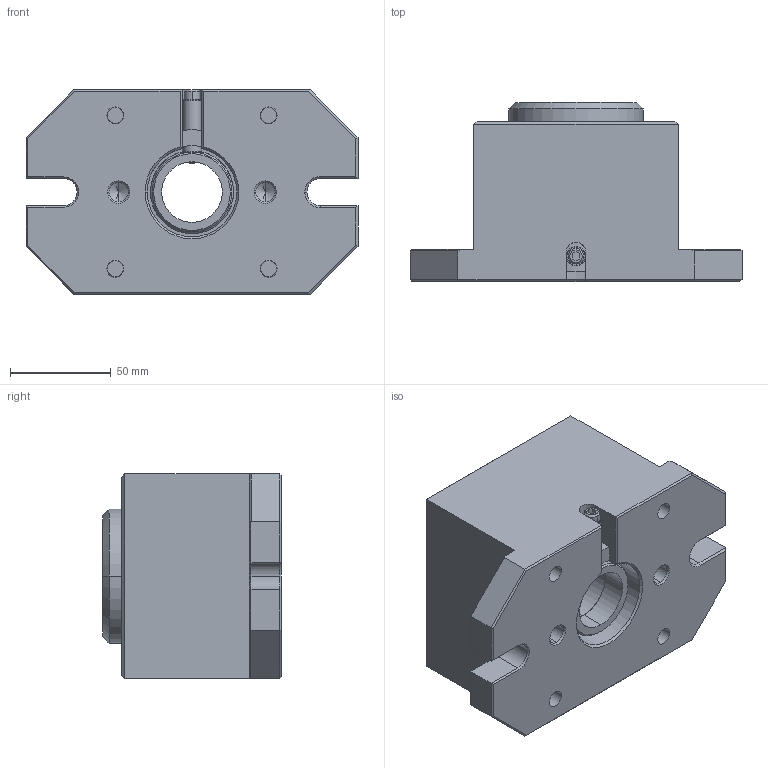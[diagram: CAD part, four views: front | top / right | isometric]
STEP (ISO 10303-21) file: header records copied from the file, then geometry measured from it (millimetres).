
FILE_DESCRIPTION (( 'STEP AP214' ), '1' );
FILE_NAME ('65102.STEP', '2023-10-26T13:28:10', ( '' ), ( '' ), 'SwSTEP 2.0', 'SolidWorks 2022', '' );
FILE_SCHEMA (( 'AUTOMOTIVE_DESIGN' ));
Length unit declared in the file: inch
Products named in the file (2): 65102; 65102 FOR STEP
Assembly tree (1 placements, depth 2):
  65102
    65102 FOR STEP
Bounding box: 165.1 x 88.9 x 101.65 mm (x, y, z)
Volume: 833559.2 mm3; surface area: 110158.3 mm2
Topology: 5 solids, 9 shells, 1150 faces, 3000 edges, 1962 vertices
Faces by surface type: plane 593, bspline 370, cylinder 108, cone 69, torus 10
Entity records: 65148 total; most frequent: CARTESIAN_POINT 24420, ORIENTED_EDGE 5992, DIRECTION 4111, EDGE_CURVE 2996, VERTEX_POINT 1962, VECTOR 1933, LINE 1933, EDGE_LOOP 1268
